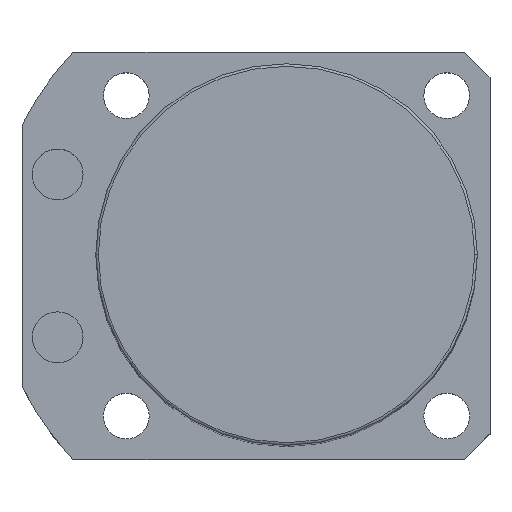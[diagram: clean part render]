
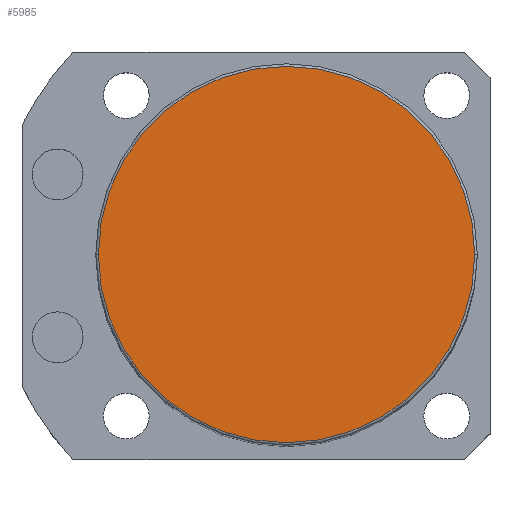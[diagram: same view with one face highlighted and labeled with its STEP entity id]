
A CAD part, top view. The second image highlights one B-rep face of the part: STEP entity #5985.
In plain terms, the highlighted planar face has unit normal (0, 0, 1).
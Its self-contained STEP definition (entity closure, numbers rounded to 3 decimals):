
#174 = EDGE_LOOP ( 'NONE', ( #377, #5735 ) ) ;
#368 = VERTEX_POINT ( 'NONE', #5892 ) ;
#377 = ORIENTED_EDGE ( 'NONE', *, *, #1350, .T. ) ;
#392 = AXIS2_PLACEMENT_3D ( 'NONE', #2104, #3109, #5121 ) ;
#1121 = CIRCLE ( 'NONE', #2311, 37. ) ;
#1350 = EDGE_CURVE ( 'NONE', #368, #6551, #2775, .T. ) ;
#1798 = DIRECTION ( 'NONE',  ( 1., 0., 0. ) ) ;
#2104 = CARTESIAN_POINT ( 'NONE',  ( 0., 0., 170.5 ) ) ;
#2120 = FACE_OUTER_BOUND ( 'NONE', #174, .T. ) ;
#2207 = DIRECTION ( 'NONE',  ( 0., 0., 1. ) ) ;
#2268 = DIRECTION ( 'NONE',  ( 0., 0., 1. ) ) ;
#2311 = AXIS2_PLACEMENT_3D ( 'NONE', #4722, #2207, #4281 ) ;
#2775 = CIRCLE ( 'NONE', #4125, 37. ) ;
#3109 = DIRECTION ( 'NONE',  ( 0., 0., 1. ) ) ;
#3335 = CARTESIAN_POINT ( 'NONE',  ( 0., 0., 170.5 ) ) ;
#4125 = AXIS2_PLACEMENT_3D ( 'NONE', #3335, #2268, #1798 ) ;
#4152 = PLANE ( 'NONE',  #392 ) ;
#4281 = DIRECTION ( 'NONE',  ( 1., 0., 0. ) ) ;
#4722 = CARTESIAN_POINT ( 'NONE',  ( 0., 0., 170.5 ) ) ;
#4869 = CARTESIAN_POINT ( 'NONE',  ( -37., 0., 170.5 ) ) ;
#5121 = DIRECTION ( 'NONE',  ( 1., 0., 0. ) ) ;
#5735 = ORIENTED_EDGE ( 'NONE', *, *, #5784, .T. ) ;
#5784 = EDGE_CURVE ( 'NONE', #6551, #368, #1121, .T. ) ;
#5892 = CARTESIAN_POINT ( 'NONE',  ( 37., 0., 170.5 ) ) ;
#5985 = ADVANCED_FACE ( 'NONE', ( #2120 ), #4152, .T. ) ;
#6551 = VERTEX_POINT ( 'NONE', #4869 ) ;
